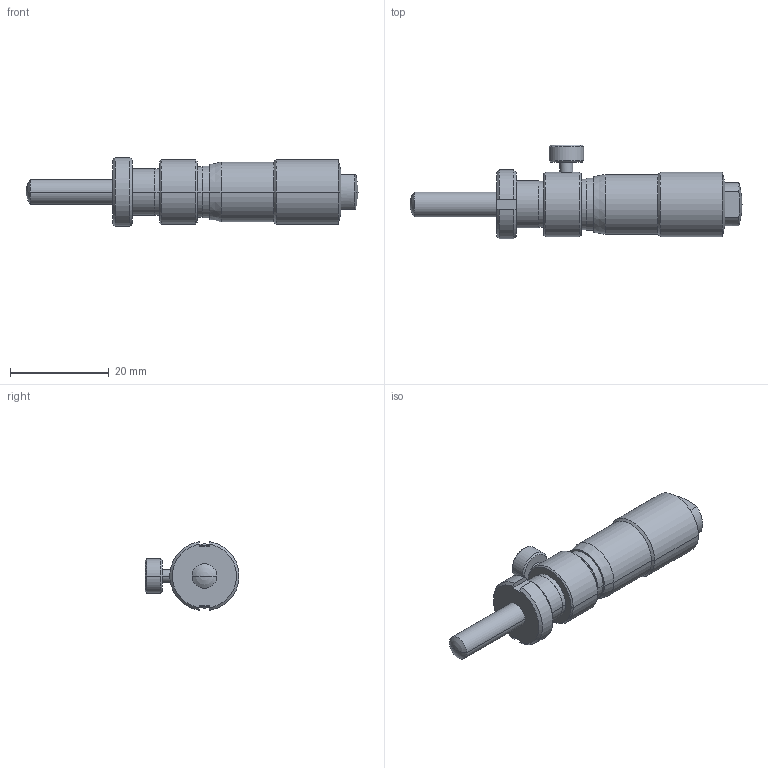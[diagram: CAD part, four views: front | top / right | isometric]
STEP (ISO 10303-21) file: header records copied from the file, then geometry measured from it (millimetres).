
FILE_DESCRIPTION(('Creo Elements/Direct Modeling STEP Export'),'2;1');
FILE_NAME('148-153-10_MHS4-13LCA.stp','2022-09-26T11:31:01',(''),(''),'Creo Elements/Direct Modeling STEP processor for AP214 (Solid Model)','Creo Elements/Direct Modeling 18.1H 24-Oct-2015 (C) Parametric Technology GmbH','');
FILE_SCHEMA(('AUTOMOTIVE_DESIGN { 1 0 10303 214 1 1 1 1 }'));
Length unit declared in the file: millimetre
Products named in the file (1): 148-153_MHS4-13LC.prt
Bounding box: 67.1 x 18.98 x 13.86 mm (x, y, z)
Volume: 6089.4 mm3; surface area: 2730.6 mm2
Topology: 1 solids, 1 shells, 64 faces, 146 edges, 89 vertices
Faces by surface type: cylinder 24, plane 18, cone 18, sphere 4
Entity records: 1697 total; most frequent: CARTESIAN_POINT 343, ORIENTED_EDGE 284, DIRECTION 266, EDGE_CURVE 142, AXIS2_PLACEMENT_3D 103, VERTEX_POINT 89, EDGE_LOOP 73, FACE_OUTER_BOUND 64
